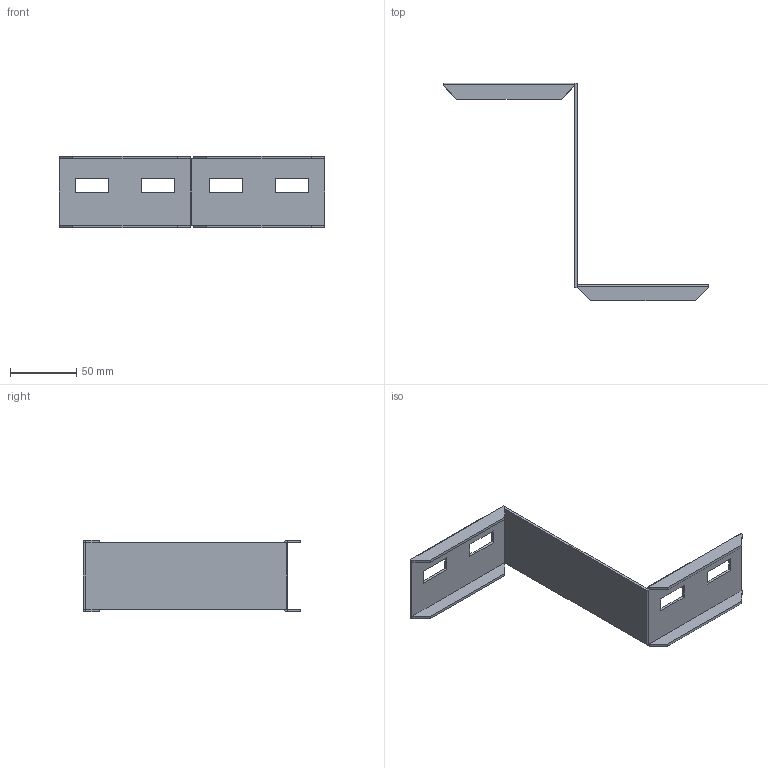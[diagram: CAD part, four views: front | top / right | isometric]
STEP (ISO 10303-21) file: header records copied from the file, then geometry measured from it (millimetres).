
FILE_DESCRIPTION(/* description */ ('','CAx-IF Rec.Pracs.---Representation and Presentation of Product Manufacturing Information (PMI)---4.0---2014-10-13'),/* implementation_level */ '2;1');
FILE_NAME(/* name */ 'Eurostrut_ELHR60-150_Left Hand Reducer for Cable Ladder ECL.step',/* time_stamp */ '2026-09-08T10:36:15+02:00',/* author */ (''),/* organization */ (''),/* preprocessor_version */ 'ST-DEVELOPER v20.1',/* originating_system */ 'Autodesk Revit 2027 27.2.0.39',/* authorisation */ '');
FILE_SCHEMA (('AP242_MANAGED_MODEL_BASED_3D_ENGINEERING_MIM_LF { 1 0 10303 442 2 1 4 }'));
Length unit declared in the file: millimetre
Products named in the file (4): TopLevelAssembly; Joined Solid Geometry; Joined Solid Geometry_1; Joined Solid Geometry_2
Assembly tree (3 placements, depth 2):
  TopLevelAssembly
    Joined Solid Geometry
    Joined Solid Geometry_1
    Joined Solid Geometry_2
Bounding box: 200 x 164 x 54 mm (x, y, z)
Volume: 41597.6 mm3; surface area: 45354.8 mm2
Topology: 5 solids, 5 shells, 64 faces, 162 edges, 108 vertices
Faces by surface type: plane 58, cylinder 6
Entity records: 1984 total; most frequent: CARTESIAN_POINT 341, ORIENTED_EDGE 324, DIRECTION 316, EDGE_CURVE 162, LINE 150, VECTOR 150, VERTEX_POINT 108, AXIS2_PLACEMENT_3D 83
